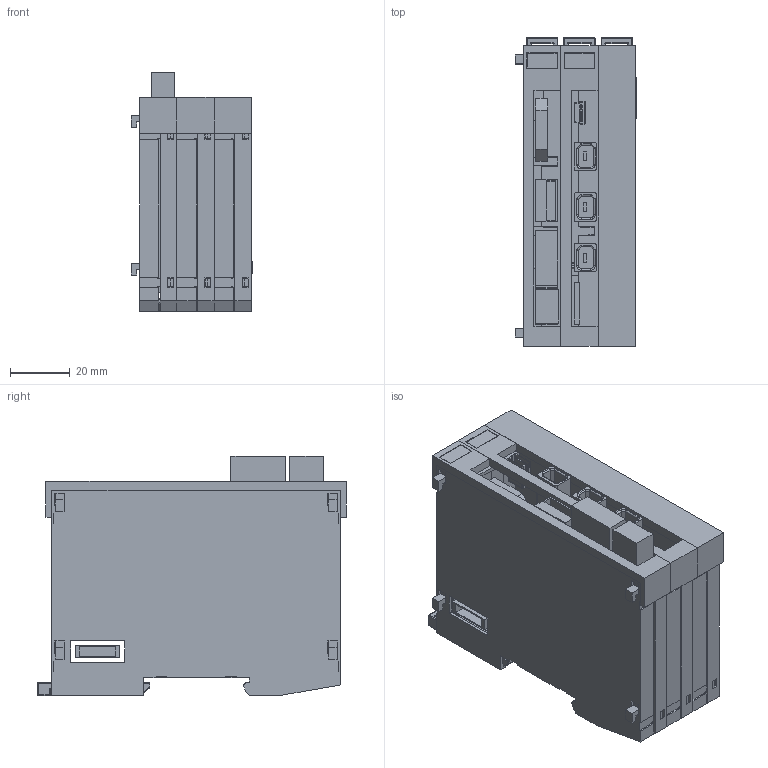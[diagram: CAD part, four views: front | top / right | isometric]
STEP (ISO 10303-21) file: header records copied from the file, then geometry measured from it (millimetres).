
FILE_DESCRIPTION (( 'STEP AP214' ), '1' );
FILE_NAME ('CP312 support.STEP', '2016-09-08T07:12:32', ( 'SIGMATEK GmbH & Co KG' ), ( 'SIGMATEK GmbH & Co KG' ), 'SwSTEP 2.0', 'SolidWorks 2015', '' );
FILE_SCHEMA (( 'AUTOMOTIVE_DESIGN' ));
Length unit declared in the file: millimetre
Products named in the file (20): Dummy_4110251244 3pol.Mini-Combic.Steckergrundg. RM 3,5 1844223; Dummy____________fmc_1.5 5pol 1952296; Dummy_4110262152 5pol Buchse; Dummy_4080225345 Erni Buchse; S-Dias Dreifachmodul Abdeckung Support; 4110251342_MF 10-5 MC CABUR_1854510000; Schieber_f Suport; S-Dias Schale rechts_f Suport; S-Dias Schale links_f Suport; S-Dias Zwischenstück Doppelmodul; CP312 support; S-Dias Rasthaken 20130313; LP_CP212-K; Dummy_4080225387 c-1981080-1-g-3d; Dummy_4080225241 MINI USB; Dummy_4080225147 & 751771034 Micro SD Connector incl. SD-Card; Dummy_7257771019_Batteriehalter; Dummy_4080225346 Erni Stift; Dummy_4080225240 USB Buchse; Dummy_4110262171 3pol Stecker 1.5-6-st-3.5_1705386
Assembly tree (26 placements, depth 3):
  CP312 support
    S-Dias Schale links_f Suport
    S-Dias Schale rechts_f Suport
    Schieber_f Suport  x2
    4110251342_MF 10-5 MC CABUR_1854510000  x2
    S-Dias Dreifachmodul Abdeckung Support
    LP_CP212-K
      Dummy_4080225345 Erni Buchse
      Dummy_4110262152 5pol Buchse
      Dummy____________fmc_1.5 5pol 1952296
      Dummy_4110251244 3pol.Mini-Combic.Steckergrundg. RM 3,5 1844223
      Dummy_4110262171 3pol Stecker 1.5-6-st-3.5_1705386
      Dummy_4080225240 USB Buchse
      Dummy_4080225346 Erni Stift
      Dummy_7257771019_Batteriehalter
      Dummy_4080225147 & 751771034 Micro SD Connector incl. SD-Card
      Dummy_4080225241 MINI USB
      Dummy_4080225387 c-1981080-1-g-3d  x3
    S-Dias Rasthaken 20130313  x3
    S-Dias Zwischenstück Doppelmodul  x2
Bounding box: 40.8 x 103.6 x 80.19 mm (x, y, z)
Volume: 50382.1 mm3; surface area: 76467.7 mm2
Topology: 27 solids, 27 shells, 2245 faces, 6523 edges, 4302 vertices
Faces by surface type: plane 1460, cylinder 442, bspline 165, cone 80, torus 55, sphere 43
Entity records: 48915 total; most frequent: CARTESIAN_POINT 9832, ORIENTED_EDGE 6998, DIRECTION 5864, EDGE_CURVE 3499, VECTOR 2660, LINE 2660, VERTEX_POINT 2303, AXIS2_PLACEMENT_3D 1602
